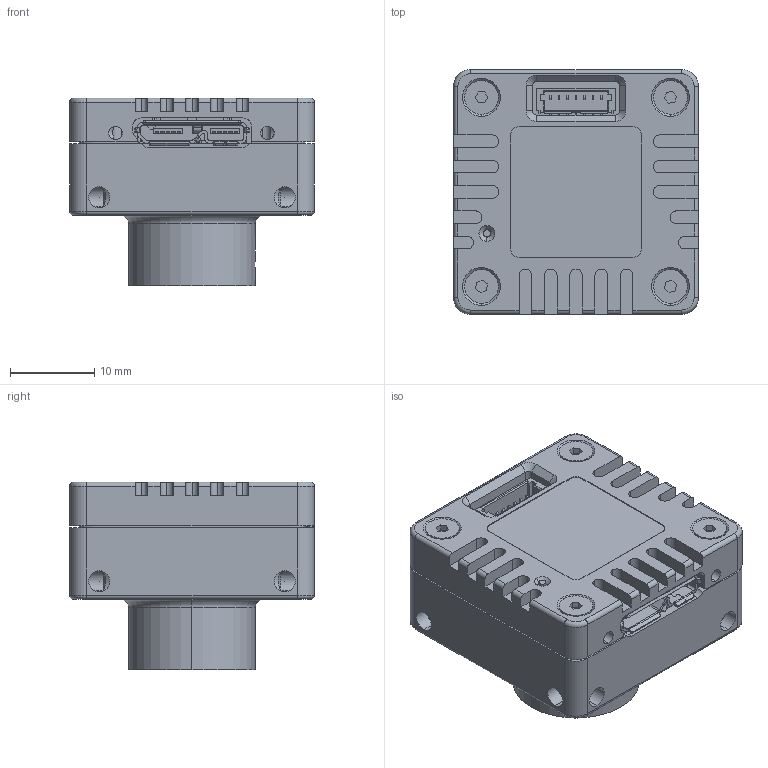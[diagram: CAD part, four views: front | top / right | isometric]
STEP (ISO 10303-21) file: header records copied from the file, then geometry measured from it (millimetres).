
FILE_DESCRIPTION (( 'STEP AP214' ), '1' );
FILE_NAME ('Aria_Smount_posteriore.STEP', '2020-12-17T09:51:24', ( '' ), ( '' ), 'SwSTEP 2.0', 'SolidWorks 2019', '' );
FILE_SCHEMA (( 'AUTOMOTIVE_DESIGN' ));
Length unit declared in the file: millimetre
Products named in the file (8): 515-1016f; M2x8 - BN20; S-mount; Aria_Smount_posteriore; Filtro; 1464_Aria_back; Guarnizione; ariasn
Assembly tree (10 placements, depth 2):
  Aria_Smount_posteriore
    S-mount
    Guarnizione
    Filtro
    ariasn
    1464_Aria_back
    515-1016f
    M2x8 - BN20  x4
Bounding box: 29 x 29 x 22.25 mm (x, y, z)
Volume: 8254.9 mm3; surface area: 11457.7 mm2
Topology: 25 solids, 25 shells, 2095 faces, 5454 edges, 3530 vertices
Faces by surface type: plane 1156, cylinder 764, cone 106, bspline 53, torus 16
Entity records: 84506 total; most frequent: CARTESIAN_POINT 16153, ORIENTED_EDGE 10620, DIRECTION 10450, EDGE_CURVE 5310, AXIS2_PLACEMENT_3D 3485, LINE 3480, VECTOR 3480, VERTEX_POINT 3464
